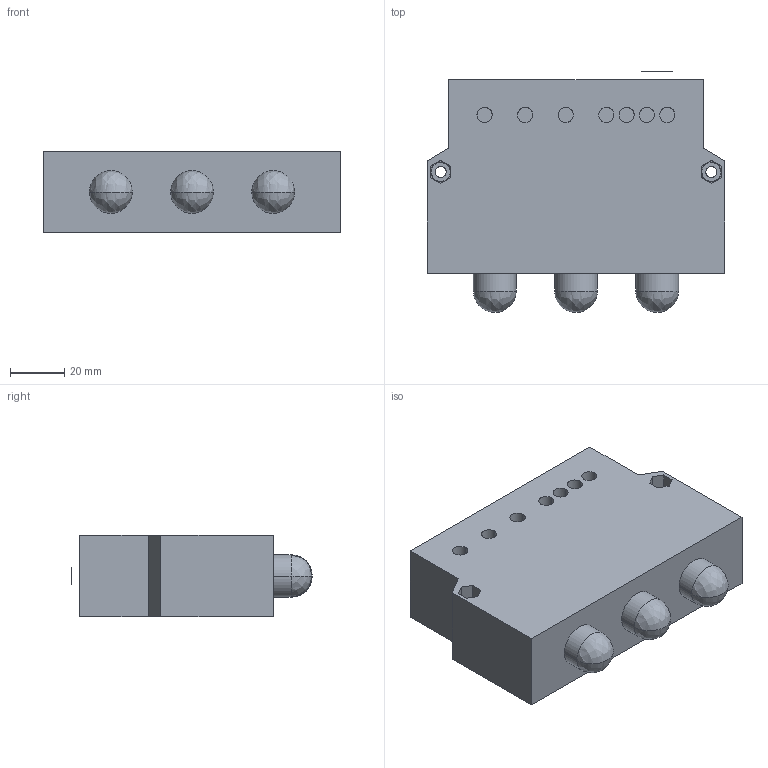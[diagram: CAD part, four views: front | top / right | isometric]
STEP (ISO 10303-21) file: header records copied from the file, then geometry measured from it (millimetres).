
FILE_DESCRIPTION(/* description */ (''),/* implementation_level */ '2;1');
FILE_NAME(/* name */ 'FD01',/* time_stamp */ '2019-07-02T09:18:25+02:00',/* author */ (''),/* organization */ (''),/* preprocessor_version */ 'ST-DEVELOPER v14',/* originating_system */ '',/* authorisation */ '');
FILE_SCHEMA (('CONFIG_CONTROL_DESIGN'));
Length unit declared in the file: millimetre
Products named in the file (1): Document
Bounding box: 110 x 88.99 x 30 mm (x, y, z)
Volume: 224478.6 mm3; surface area: 31030.1 mm2
Topology: 1 solids, 4 shells, 133 faces, 347 edges, 186 vertices
Faces by surface type: bspline 78, plane 55
Entity records: 5457 total; most frequent: CARTESIAN_POINT 3419, ORIENTED_EDGE 584, EDGE_CURVE 335, B_SPLINE_CURVE_WITH_KNOTS 212, VERTEX_POINT 186, EDGE_LOOP 160, ADVANCED_FACE 133, FACE_OUTER_BOUND 133
